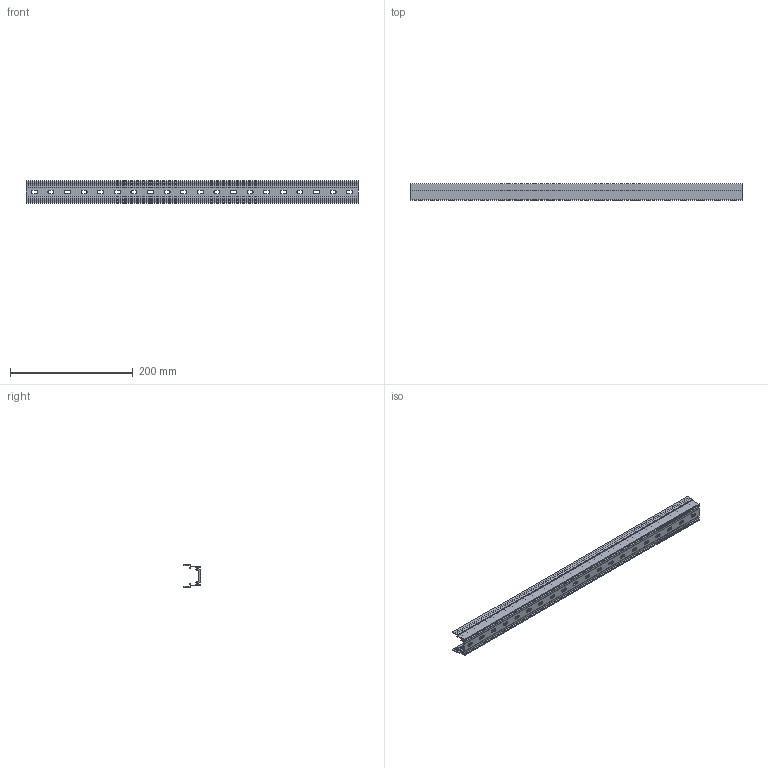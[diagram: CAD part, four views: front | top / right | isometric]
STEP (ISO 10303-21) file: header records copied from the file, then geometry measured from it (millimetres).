
FILE_DESCRIPTION( ( 'STEP AP203' ), '1' );
FILE_NAME( 'C:/Temp/Ganter_Step_05_03_2020/data/3_8/gn_646_3/Carrier profile GN 646.3-540-B (15).stp', '2020-03-12T15:24:24', ( 'License CC BY-ND 4.0' ), ( 'CADENAS' ), ' ', 'PARTsolutions', ' ' );
FILE_SCHEMA( ( 'CONFIG_CONTROL_DESIGN' ) );
Length unit declared in the file: millimetre
Products named in the file (1): _Carrier profile GN 646.3-540-B (15)
Bounding box: 540 x 26.5 x 36 mm (x, y, z)
Volume: 89041.8 mm3; surface area: 112756.2 mm2
Topology: 1 solids, 1 shells, 192 faces, 570 edges, 380 vertices
Faces by surface type: plane 110, cylinder 82
Entity records: 6582 total; most frequent: CARTESIAN_POINT 1143, ORIENTED_EDGE 1140, DIRECTION 1120, EDGE_CURVE 570, LINE 406, VECTOR 406, VERTEX_POINT 380, AXIS2_PLACEMENT_3D 357
